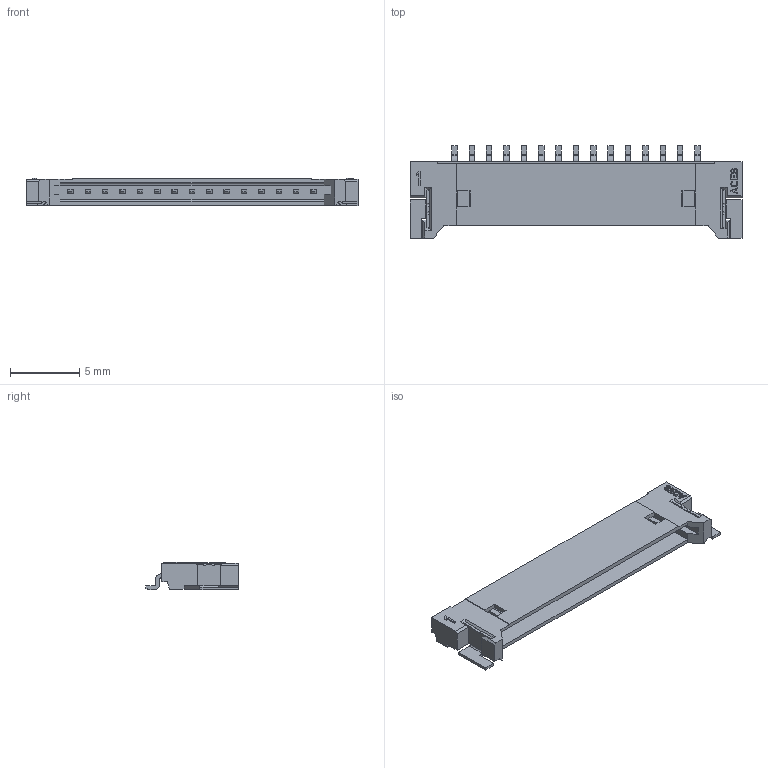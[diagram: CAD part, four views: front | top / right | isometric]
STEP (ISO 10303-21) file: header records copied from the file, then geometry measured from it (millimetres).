
FILE_DESCRIPTION((''),'2;1');
FILE_NAME('S-88231-15XXX-XX_AF0','2010-02-03T',('ouchwu'),(''),'PRO/ENGINEER BY PARAMETRIC TECHNOLOGY CORPORATION, 2007450','PRO/ENGINEER BY PARAMETRIC TECHNOLOGY CORPORATION, 2007450','');
FILE_SCHEMA(('CONFIG_CONTROL_DESIGN'));
Length unit declared in the file: millimetre
Products named in the file (1): S-88231-15XXX-XX_AF0
Bounding box: 23.9 x 6.65 x 2 mm (x, y, z)
Volume: 106 mm3; surface area: 593.5 mm2
Topology: 1 solids, 35 shells, 1022 faces, 2602 edges, 1686 vertices
Faces by surface type: plane 944, cylinder 78
Entity records: 30120 total; most frequent: CARTESIAN_POINT 5310, ORIENTED_EDGE 5204, DIRECTION 4810, EDGE_CURVE 2602, VECTOR 2438, LINE 2438, VERTEX_POINT 1686, AXIS2_PLACEMENT_3D 1186
